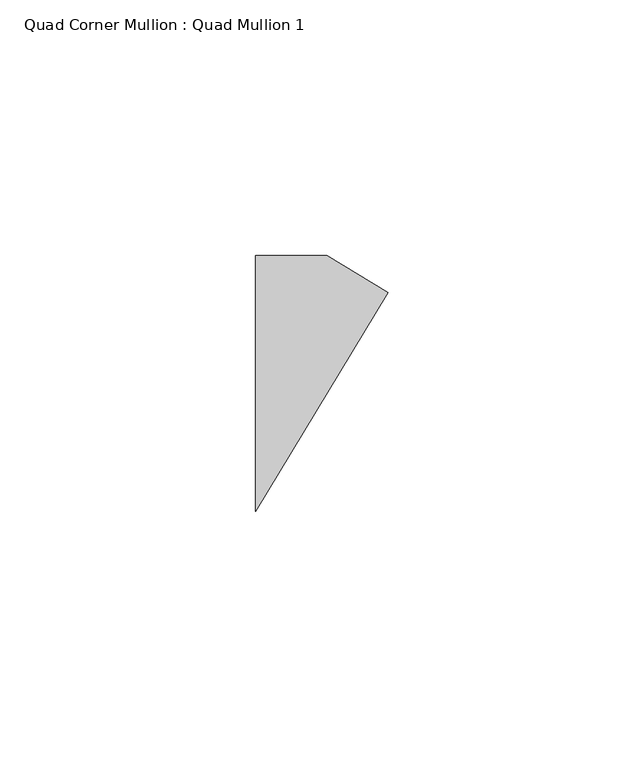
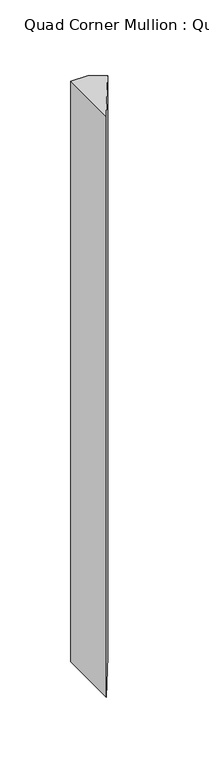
"""IFC4 building model written with IfcOpenShell, lengths in millimetres: member geometry, Quad Corner Mullion : Quad Mullion 1."""

import ifcopenshell
import ifcopenshell.guid

model = None  # the IFC model being written
_history = None  # IfcOwnerHistory: only IFC2X3 demands one
_inside = {}  # id of a spatial element -> (the spatial element, [elements in it])
_under = {}  # id of a project, library or spatial element -> (it, [spatial elements below it])
_declared = {}  # id of a project -> (the project, [libraries it declares])
_typed = {}  # id of a type object -> (the type object, [elements of that type])
_made_of = {}  # id of a material, layer set ... -> (it, [elements and type objects made of it])


def new_model(schema):
    """Start an empty IFC model of exactly this schema.

    Asked for "IFC4X3", IfcOpenShell would pick the latest addendum, in which some entities
    have other attributes; the version numbers below select the first issue.
    IFC2X3 requires an IfcOwnerHistory on every rooted entity: one is made here for all.
    """
    global model, _history
    if schema == "IFC4X3":
        model = ifcopenshell.file(schema_version=(4, 3, 0, 0))
    else:
        model = ifcopenshell.file(schema=schema)
    _inside.clear()
    _under.clear()
    _declared.clear()
    _typed.clear()
    _made_of.clear()
    _history = None
    if model.schema == "IFC2X3":
        org = make("IfcOrganization", Name="unknown")
        user = make(
            "IfcPersonAndOrganization",
            ThePerson=make("IfcPerson", FamilyName="unknown"),
            TheOrganization=org,
        )
        app = make(
            "IfcApplication",
            ApplicationDeveloper=org,
            Version="unknown",
            ApplicationFullName="unknown",
            ApplicationIdentifier="unknown",
        )
        _history = make(
            "IfcOwnerHistory",
            OwningUser=user,
            OwningApplication=app,
            ChangeAction="ADDED",
            CreationDate=0,
        )
    return model


def make(cls, **values):
    """One entity of the class cls with the attributes given. An attribute that is None is left unset."""
    return model.create_entity(
        cls, **{name: value for name, value in values.items() if value is not None}
    )


def rooted(cls, **values):
    """An entity with a GlobalId (a new one), such as an element, a storey or a relation."""
    return make(cls, GlobalId=ifcopenshell.guid.new(), OwnerHistory=_history, **values)


def si_unit(unit_type, name, prefix=None):
    """IfcSIUnit, for example si_unit("LENGTHUNIT", "METRE", prefix="MILLI")."""
    return make("IfcSIUnit", UnitType=unit_type, Prefix=prefix, Name=name)


def assignment(units):
    """IfcUnitAssignment: the units of a project."""
    return None if units is None else make("IfcUnitAssignment", Units=units)


def point(xyz):
    """IfcCartesianPoint."""
    return None if xyz is None else make("IfcCartesianPoint", Coordinates=xyz)


def direction(xyz):
    """IfcDirection."""
    return None if xyz is None else make("IfcDirection", DirectionRatios=xyz)


def frame(location, z_axis=None, x_axis=None):
    """IfcAxis2Placement3D, a coordinate frame: its origin and axes. An axis left out is left unset."""
    return make(
        "IfcAxis2Placement3D",
        Location=point(location),
        Axis=direction(z_axis),
        RefDirection=direction(x_axis),
    )


def origin():
    """The frame at (0, 0, 0) with its axes left unset."""
    return frame((0.0, 0.0, 0.0))


def place(relative_to, where):
    """IfcLocalPlacement: puts the frame where relative to a parent placement (None: the world)."""
    return make(
        "IfcLocalPlacement", PlacementRelTo=relative_to, RelativePlacement=where
    )


def context(
    kind, dimensions, precision=None, world=None, true_north=None, identifier=None
):
    """IfcGeometricRepresentationContext, for example the 3D "Model" context."""
    return make(
        "IfcGeometricRepresentationContext",
        ContextIdentifier=identifier,
        ContextType=kind,
        CoordinateSpaceDimension=dimensions,
        Precision=precision,
        WorldCoordinateSystem=world,
        TrueNorth=true_north,
    )


def project(units=None, contexts=None):
    """IfcProject with its units and contexts."""
    return rooted(
        "IfcProject",
        Name="project",
        RepresentationContexts=contexts,
        UnitsInContext=assignment(units),
    )


def spatial(cls, under=None, at=None, **own):
    """A site, building, storey or space (cls), placed at a placement, below another one or the project."""
    s = rooted(cls, ObjectPlacement=at, **own)
    if under is not None:
        _under.setdefault(under.id(), (under, []))[1].append(s)
    return s


def polyline(points):
    """IfcPolyline through the points."""
    return make("IfcPolyline", Points=[point(p) for p in points])


def outline(outer, holes=None, kind="AREA"):
    """IfcArbitraryClosedProfileDef: a profile drawn as a closed curve; with holes, ...WithVoids."""
    if holes is None:
        return make("IfcArbitraryClosedProfileDef", ProfileType=kind, OuterCurve=outer)
    return make(
        "IfcArbitraryProfileDefWithVoids",
        ProfileType=kind,
        OuterCurve=outer,
        InnerCurves=holes,
    )


def extrude(swept, where, along, depth):
    """IfcExtrudedAreaSolid: the profile swept, set in the frame where, extruded along a direction by depth."""
    return make(
        "IfcExtrudedAreaSolid",
        SweptArea=swept,
        Position=where,
        ExtrudedDirection=direction(along),
        Depth=depth,
    )


def shape(context_of_items, identifier, shape_type, items):
    """IfcShapeRepresentation: the items that make up one representation, for example the "Body"."""
    return make(
        "IfcShapeRepresentation",
        ContextOfItems=context_of_items,
        RepresentationIdentifier=identifier,
        RepresentationType=shape_type,
        Items=items,
    )


def source(mapping_origin, context_of_items, identifier, shape_type, items):
    """IfcRepresentationMap: a shape defined once, which mapped items show again and again."""
    return make(
        "IfcRepresentationMap",
        MappingOrigin=mapping_origin,
        MappedRepresentation=shape(context_of_items, identifier, shape_type, items),
    )


def transform(
    local_origin,
    x_axis=None,
    y_axis=None,
    z_axis=None,
    scale=None,
    scale2=None,
    scale3=None,
    uniform=True,
):
    """IfcCartesianTransformationOperator3D, or its non-uniform kind. x_axis, y_axis, z_axis: its Axis1, 2, 3."""
    if uniform:
        return make(
            "IfcCartesianTransformationOperator3D",
            Axis1=direction(x_axis),
            Axis2=direction(y_axis),
            LocalOrigin=point(local_origin),
            Scale=scale,
            Axis3=direction(z_axis),
        )
    return make(
        "IfcCartesianTransformationOperator3DnonUniform",
        Axis1=direction(x_axis),
        Axis2=direction(y_axis),
        LocalOrigin=point(local_origin),
        Scale=scale,
        Axis3=direction(z_axis),
        Scale2=scale2,
        Scale3=scale3,
    )


def mapped(mapping_source, mapping_target):
    """IfcMappedItem: shows the shape of a source again, moved by a transform."""
    return make(
        "IfcMappedItem", MappingSource=mapping_source, MappingTarget=mapping_target
    )


def made_of(thing, what):
    """Note that an element or type object is made of a material, layer set ...; save() writes the relation."""
    if what is not None:
        _made_of.setdefault(what.id(), (what, []))[1].append(thing)
    return thing


def element(
    cls,
    number,
    at=None,
    inside=None,
    cuts=None,
    type_object=None,
    material=None,
    context=None,
    identifier="Body",
    shape_type=None,
    held_by="IfcProductDefinitionShape",
    body=None,
    shapes=None,
    **own,
):
    """One element of the class cls, such as IfcWall. Its Tag is "e" and its number.

    at: its placement. inside: the storey or other place that contains it. cuts: it is an
    opening in that element (IfcRelVoidsElement). A single representation is given by context,
    identifier, shape_type and body (its items); several are given by shapes. held_by: the class
    of the entity that holds the representations. save() writes the other relations.
    """
    e = rooted(cls, Tag="e%d" % number, ObjectPlacement=at, **own)
    if body is not None:
        shapes = [shape(context, identifier, shape_type, body)]
    if shapes is not None:
        e.Representation = make(held_by, Representations=shapes)
    if inside is not None:
        _inside.setdefault(inside.id(), (inside, []))[1].append(e)
    if cuts is not None:
        rooted(
            "IfcRelVoidsElement", RelatingBuildingElement=cuts, RelatedOpeningElement=e
        )
    if type_object is not None:
        _typed.setdefault(type_object.id(), (type_object, []))[1].append(e)
    return made_of(e, material)


def aggregate(whole, parts):
    """IfcRelAggregates: a whole, such as a stair, and the parts it consists of."""
    return rooted("IfcRelAggregates", RelatingObject=whole, RelatedObjects=parts)


def save(model, path):
    """Write the relations noted so far, then the file.

    IfcRelAggregates (storeys below a building ...), IfcRelContainedInSpatialStructure (elements
    in a storey), IfcRelDefinesByType, IfcRelAssociatesMaterial and IfcRelDeclares: one each for
    every whole, place, type object, material and project.
    """
    for whole, parts in _under.values():
        aggregate(whole, parts)
    for where, things in _inside.values():
        rooted(
            "IfcRelContainedInSpatialStructure",
            RelatedElements=things,
            RelatingStructure=where,
        )
    for kind, things in _typed.values():
        rooted("IfcRelDefinesByType", RelatedObjects=things, RelatingType=kind)
    for what, things in _made_of.values():
        rooted("IfcRelAssociatesMaterial", RelatedObjects=things, RelatingMaterial=what)
    for by, libraries in _declared.values():
        rooted("IfcRelDeclares", RelatingContext=by, RelatedDefinitions=libraries)
    model.write(path)


def quad_corner_mullion_quad_mullion_1_db7102bb(model_context):
    return source(origin(), model_context, "Body", "SweptSolid", [
        extrude(outline(polyline([(18.9158712, 17.7729457), (-6.9776631, -25.0), (-6.9776631, 25.0), (6.9776631, 25.0), (18.9158712, 17.7729457)])), frame((0.0, 0.0, -500.0), z_axis=(0.0, 0.0, 1.0), x_axis=(1.0, 0.0, 0.0)), (0.0, 0.0, 1.0), 500.0),
    ])


if __name__ == "__main__":
    model = new_model("IFC4")
    model_context = context("Model", 3, world=origin())
    ifc_project = project(units=[si_unit("LENGTHUNIT", "METRE", prefix="MILLI")], contexts=[model_context])
    site = spatial("IfcSite", under=ifc_project)
    building = spatial("IfcBuilding", under=site)
    placement = place(None, origin())
    quad_corner_mullion_quad_mullion_1_shape = quad_corner_mullion_quad_mullion_1_db7102bb(model_context)
    element("IfcMember", 1, ObjectType="Quad Corner Mullion : Quad Mullion 1", at=placement, inside=building, context=model_context, shape_type="MappedRepresentation", body=[
        mapped(quad_corner_mullion_quad_mullion_1_shape, transform((0.0, 0.0, 0.0), x_axis=(1.0, 0.0, 0.0), y_axis=(0.0, 1.0, 0.0), z_axis=(0.0, 0.0, 1.0))),
    ])
    save(model, "model.ifc")
